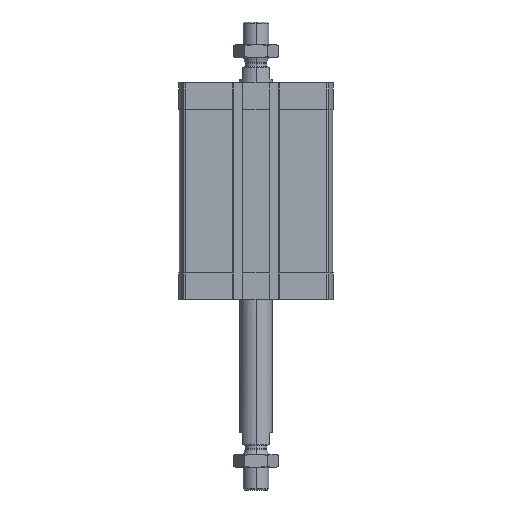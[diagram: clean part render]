
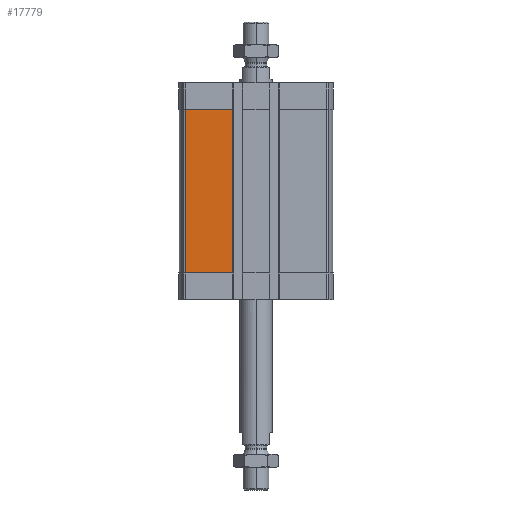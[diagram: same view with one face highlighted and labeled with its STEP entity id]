
A CAD part, left-side view. The second image highlights one B-rep face of the part: STEP entity #17779.
In plain terms, the highlighted planar face has unit normal (-1, 0, 0).
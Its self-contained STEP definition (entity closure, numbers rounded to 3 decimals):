
#49 = CARTESIAN_POINT ( 'NONE',  ( -47.5, 43.743, -16.5 ) ) ;
#188 = CARTESIAN_POINT ( 'NONE',  ( -47.5, 43.743, -117.5 ) ) ;
#806 = LINE ( 'NONE', #7545, #6710 ) ;
#924 = ORIENTED_EDGE ( 'NONE', *, *, #14805, .F. ) ;
#956 = EDGE_CURVE ( 'NONE', #8470, #13773, #3523, .T. ) ;
#2180 = LINE ( 'NONE', #11636, #8131 ) ;
#2218 = EDGE_LOOP ( 'NONE', ( #924, #11549, #14778, #16258 ) ) ;
#3523 = LINE ( 'NONE', #13652, #11989 ) ;
#4791 = DIRECTION ( 'NONE',  ( 0., 0., 1. ) ) ;
#5876 = VERTEX_POINT ( 'NONE', #11702 ) ;
#6295 = DIRECTION ( 'NONE',  ( 0., 0., 1. ) ) ;
#6358 = DIRECTION ( 'NONE',  ( 0., 0., 1. ) ) ;
#6710 = VECTOR ( 'NONE', #6295, 1000. ) ;
#7279 = CARTESIAN_POINT ( 'NONE',  ( -47.5, 14.3, -16.5 ) ) ;
#7402 = DIRECTION ( 'NONE',  ( 0., -1., 0. ) ) ;
#7545 = CARTESIAN_POINT ( 'NONE',  ( -47.5, 14.3, -117.5 ) ) ;
#8131 = VECTOR ( 'NONE', #7402, 1000. ) ;
#8470 = VERTEX_POINT ( 'NONE', #188 ) ;
#8551 = EDGE_CURVE ( 'NONE', #5876, #17483, #806, .T. ) ;
#9180 = VECTOR ( 'NONE', #12372, 1000. ) ;
#9357 = EDGE_CURVE ( 'NONE', #8470, #5876, #2180, .T. ) ;
#10237 = FACE_OUTER_BOUND ( 'NONE', #2218, .T. ) ;
#11496 = PLANE ( 'NONE',  #15963 ) ;
#11549 = ORIENTED_EDGE ( 'NONE', *, *, #956, .F. ) ;
#11636 = CARTESIAN_POINT ( 'NONE',  ( -47.5, 43.743, -117.5 ) ) ;
#11702 = CARTESIAN_POINT ( 'NONE',  ( -47.5, 14.3, -117.5 ) ) ;
#11989 = VECTOR ( 'NONE', #4791, 1000. ) ;
#12372 = DIRECTION ( 'NONE',  ( 0., -1., 0. ) ) ;
#12846 = DIRECTION ( 'NONE',  ( -1., 0., 0. ) ) ;
#13652 = CARTESIAN_POINT ( 'NONE',  ( -47.5, 43.743, -117.5 ) ) ;
#13773 = VERTEX_POINT ( 'NONE', #49 ) ;
#14778 = ORIENTED_EDGE ( 'NONE', *, *, #9357, .T. ) ;
#14805 = EDGE_CURVE ( 'NONE', #13773, #17483, #15070, .T. ) ;
#15070 = LINE ( 'NONE', #16520, #9180 ) ;
#15963 = AXIS2_PLACEMENT_3D ( 'NONE', #17255, #12846, #6358 ) ;
#16258 = ORIENTED_EDGE ( 'NONE', *, *, #8551, .T. ) ;
#16520 = CARTESIAN_POINT ( 'NONE',  ( -47.5, 43.743, -16.5 ) ) ;
#17255 = CARTESIAN_POINT ( 'NONE',  ( -47.5, 43.743, -117.5 ) ) ;
#17483 = VERTEX_POINT ( 'NONE', #7279 ) ;
#17779 = ADVANCED_FACE ( 'NONE', ( #10237 ), #11496, .T. ) ;
